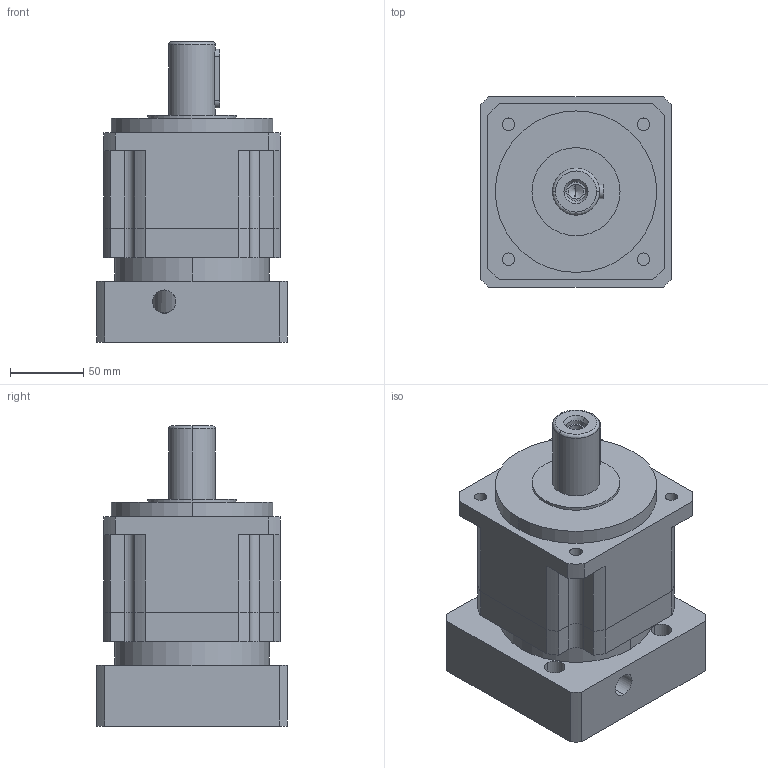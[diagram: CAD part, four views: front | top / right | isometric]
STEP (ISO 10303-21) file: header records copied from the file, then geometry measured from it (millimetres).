
FILE_DESCRIPTION (( 'STEP AP203' ), '1' );
FILE_NAME ('PAG120-L1-28-110-145输入轴长71.STEP', '2024-06-20T03:36:36', ( 'Windows User' ), ( 'P R C' ), 'SwSTEP 2.0', 'SolidWorks 2016', '' );
FILE_SCHEMA (( 'CONFIG_CONTROL_DESIGN' ));
Length unit declared in the file: millimetre
Products named in the file (7): PAG120-本体齿圈; PAG120-薊粣ん-28_LZ03; PAG120-帣釱-LR71; 囀鞠褒蹟佪-M8℅25; 邧埴瑩 10x8x40; 粣創-6009 45x75x16; PAG120-L1-28-110-145输入轴长71
Assembly tree (6 placements, depth 2):
  PAG120-L1-28-110-145输入轴长71
    PAG120-本体齿圈
    PAG120-薊粣ん-28_LZ03
    PAG120-帣釱-LR71
    囀鞠褒蹟佪-M8℅25
    邧埴瑩 10x8x40
    粣創-6009 45x75x16
Bounding box: 130 x 130 x 204.5 mm (x, y, z)
Volume: 1758700.8 mm3; surface area: 223104.9 mm2
Topology: 6 solids, 6 shells, 1015 faces, 2795 edges, 1844 vertices
Faces by surface type: plane 560, bspline 274, cylinder 165, cone 16
Entity records: 43782 total; most frequent: CARTESIAN_POINT 18844, ORIENTED_EDGE 5562, DIRECTION 4155, EDGE_CURVE 2781, VERTEX_POINT 1840, LINE 1613, VECTOR 1613, AXIS2_PLACEMENT_3D 1271
